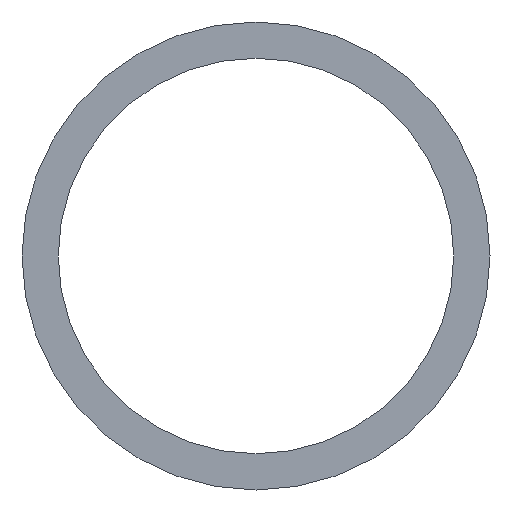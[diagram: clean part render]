
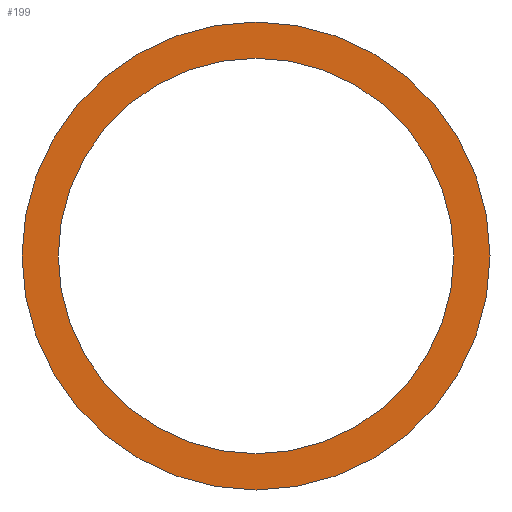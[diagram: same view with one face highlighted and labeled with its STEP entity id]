
A CAD part, front view. The second image highlights one B-rep face of the part: STEP entity #199.
In plain terms, the highlighted planar face has unit normal (0, -1, 0).
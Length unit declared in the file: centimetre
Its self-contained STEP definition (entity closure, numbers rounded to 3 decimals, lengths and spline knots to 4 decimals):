
#4 = VERTEX_POINT ( 'NONE', #190 ) ;
#8 = VERTEX_POINT ( 'NONE', #166 ) ;
#10 = VERTEX_POINT ( 'NONE', #143 ) ;
#15 = VERTEX_POINT ( 'NONE', #189 ) ;
#23 = ORIENTED_EDGE ( 'NONE', *, *, #240, .F. ) ;
#32 = ORIENTED_EDGE ( 'NONE', *, *, #237, .F. ) ;
#33 = FACE_OUTER_BOUND ( 'NONE', #46, .T. ) ;
#35 = FACE_BOUND ( 'NONE', #45, .T. ) ;
#38 = ORIENTED_EDGE ( 'NONE', *, *, #239, .F. ) ;
#45 = EDGE_LOOP ( 'NONE', ( #32, #47 ) ) ;
#46 = EDGE_LOOP ( 'NONE', ( #38, #23 ) ) ;
#47 = ORIENTED_EDGE ( 'NONE', *, *, #246, .F. ) ;
#73 = CIRCLE ( 'NONE', #221, 5.0914 ) ;
#77 = CIRCLE ( 'NONE', #224, 6.0236 ) ;
#81 = CIRCLE ( 'NONE', #230, 5.0914 ) ;
#85 = CIRCLE ( 'NONE', #225, 6.0236 ) ;
#110 = DIRECTION ( 'NONE',  ( 0., 0., 1. ) ) ;
#113 = CARTESIAN_POINT ( 'NONE',  ( 0., -0.1016, 0. ) ) ;
#124 = CARTESIAN_POINT ( 'NONE',  ( 0., -0.1016, 0. ) ) ;
#127 = CARTESIAN_POINT ( 'NONE',  ( 0., -0.1016, 0. ) ) ;
#128 = DIRECTION ( 'NONE',  ( 0., 1., 0. ) ) ;
#130 = PLANE ( 'NONE',  #229 ) ;
#132 = DIRECTION ( 'NONE',  ( 0., -1., 0. ) ) ;
#143 = CARTESIAN_POINT ( 'NONE',  ( 0., -0.1016, -5.0914 ) ) ;
#149 = DIRECTION ( 'NONE',  ( 0., 0., 1. ) ) ;
#157 = DIRECTION ( 'NONE',  ( 0., 1., 0. ) ) ;
#162 = DIRECTION ( 'NONE',  ( 0., 0., 1. ) ) ;
#164 = CARTESIAN_POINT ( 'NONE',  ( 0., -0.1016, 0. ) ) ;
#166 = CARTESIAN_POINT ( 'NONE',  ( 0., -0.1016, 5.0914 ) ) ;
#167 = DIRECTION ( 'NONE',  ( 0., 1., 0. ) ) ;
#175 = CARTESIAN_POINT ( 'NONE',  ( 0., -0.1016, 0. ) ) ;
#176 = DIRECTION ( 'NONE',  ( 0., -1., 0. ) ) ;
#177 = DIRECTION ( 'NONE',  ( 0., 0., 1. ) ) ;
#180 = DIRECTION ( 'NONE',  ( 0., 0., 1. ) ) ;
#189 = CARTESIAN_POINT ( 'NONE',  ( 0., -0.1016, -6.0236 ) ) ;
#190 = CARTESIAN_POINT ( 'NONE',  ( 0., -0.1016, 6.0236 ) ) ;
#199 = ADVANCED_FACE ( 'NONE', ( #33, #35 ), #130, .F. ) ;
#221 = AXIS2_PLACEMENT_3D ( 'NONE', #127, #132, #180 ) ;
#224 = AXIS2_PLACEMENT_3D ( 'NONE', #164, #128, #110 ) ;
#225 = AXIS2_PLACEMENT_3D ( 'NONE', #113, #167, #149 ) ;
#229 = AXIS2_PLACEMENT_3D ( 'NONE', #124, #157, #162 ) ;
#230 = AXIS2_PLACEMENT_3D ( 'NONE', #175, #176, #177 ) ;
#237 = EDGE_CURVE ( 'NONE', #8, #10, #81, .T. ) ;
#239 = EDGE_CURVE ( 'NONE', #4, #15, #85, .T. ) ;
#240 = EDGE_CURVE ( 'NONE', #15, #4, #77, .T. ) ;
#246 = EDGE_CURVE ( 'NONE', #10, #8, #73, .T. ) ;
